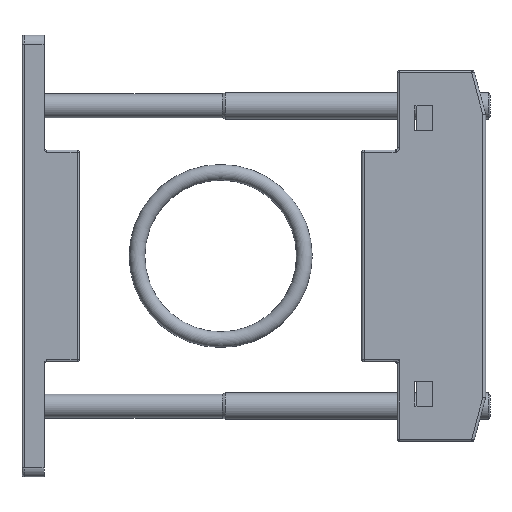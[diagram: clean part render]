
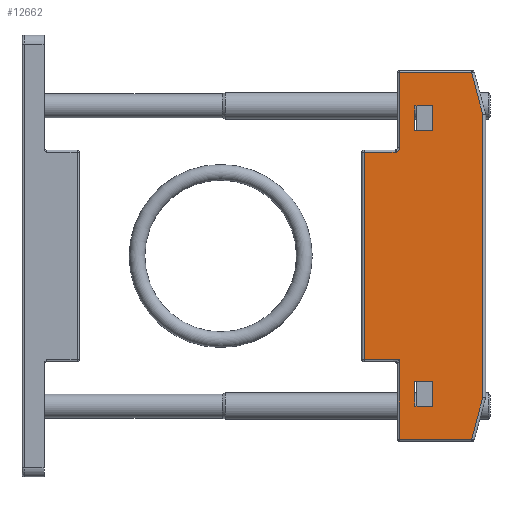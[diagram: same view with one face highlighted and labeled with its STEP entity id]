
A CAD part, front view. The second image highlights one B-rep face of the part: STEP entity #12662.
In plain terms, the highlighted planar face has unit normal (0, -1, 0).
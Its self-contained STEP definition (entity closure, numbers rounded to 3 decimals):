
#388=CIRCLE('',#13583,0.5);
#772=FACE_BOUND('',#2364,.T.);
#773=FACE_BOUND('',#2365,.T.);
#1025=PLANE('',#13582);
#1589=FACE_OUTER_BOUND('',#2363,.T.);
#2363=EDGE_LOOP('',(#10656,#10657,#10658,#10659,#10660,#10661,#10662,#10663,
#10664,#10665,#10666,#10667));
#2364=EDGE_LOOP('',(#10668,#10669,#10670,#10671));
#2365=EDGE_LOOP('',(#10672,#10673,#10674,#10675));
#3345=LINE('',#21510,#4400);
#3349=LINE('',#21519,#4404);
#3354=LINE('',#21531,#4409);
#3366=LINE('',#21561,#4421);
#3373=LINE('',#21577,#4428);
#3380=LINE('',#21595,#4435);
#3389=LINE('',#21613,#4444);
#3415=LINE('',#22202,#4470);
#3417=LINE('',#22207,#4472);
#3419=LINE('',#22211,#4474);
#3449=LINE('',#22300,#4504);
#3453=LINE('',#22313,#4508);
#3454=LINE('',#22315,#4509);
#3455=LINE('',#22325,#4510);
#3456=LINE('',#22327,#4511);
#3457=LINE('',#22329,#4512);
#3458=LINE('',#22330,#4513);
#3459=LINE('',#22331,#4514);
#4400=VECTOR('',#15616,10.);
#4404=VECTOR('',#15622,10.);
#4409=VECTOR('',#15631,10.);
#4421=VECTOR('',#15653,10.);
#4428=VECTOR('',#15664,10.);
#4435=VECTOR('',#15677,10.);
#4444=VECTOR('',#15690,10.);
#4470=VECTOR('',#15860,10.);
#4472=VECTOR('',#15866,10.);
#4474=VECTOR('',#15872,10.);
#4504=VECTOR('',#15944,10.);
#4508=VECTOR('',#15960,10.);
#4509=VECTOR('',#15961,10.);
#4510=VECTOR('',#15964,10.);
#4511=VECTOR('',#15965,10.);
#4512=VECTOR('',#15966,10.);
#4513=VECTOR('',#15967,10.);
#4514=VECTOR('',#15968,10.);
#5013=B_SPLINE_CURVE_WITH_KNOTS('',3,(#22317,#22318,#22319,#22320,#22321),
 .UNSPECIFIED.,.F.,.F.,(4,1,4),(0.,0.025,0.058),
 .UNSPECIFIED.);
#5814=VERTEX_POINT('',#21507);
#5815=VERTEX_POINT('',#21509);
#5818=VERTEX_POINT('',#21516);
#5819=VERTEX_POINT('',#21518);
#5824=VERTEX_POINT('',#21529);
#5837=VERTEX_POINT('',#21560);
#5844=VERTEX_POINT('',#21576);
#5852=VERTEX_POINT('',#21594);
#5908=VERTEX_POINT('',#22069);
#5917=VERTEX_POINT('',#22172);
#5920=VERTEX_POINT('',#22201);
#5921=VERTEX_POINT('',#22206);
#5954=VERTEX_POINT('',#22299);
#5957=VERTEX_POINT('',#22312);
#5958=VERTEX_POINT('',#22314);
#5959=VERTEX_POINT('',#22316);
#5960=VERTEX_POINT('',#22322);
#5961=VERTEX_POINT('',#22324);
#5962=VERTEX_POINT('',#22326);
#5963=VERTEX_POINT('',#22328);
#7373=EDGE_CURVE('',#5815,#5814,#3345,.T.);
#7377=EDGE_CURVE('',#5819,#5818,#3349,.T.);
#7383=EDGE_CURVE('',#5814,#5824,#3354,.T.);
#7398=EDGE_CURVE('',#5837,#5815,#3366,.T.);
#7406=EDGE_CURVE('',#5844,#5819,#3373,.T.);
#7415=EDGE_CURVE('',#5852,#5844,#3380,.T.);
#7425=EDGE_CURVE('',#5818,#5852,#3389,.T.);
#7512=EDGE_CURVE('',#5908,#5920,#3415,.T.);
#7515=EDGE_CURVE('',#5920,#5921,#3417,.T.);
#7518=EDGE_CURVE('',#5921,#5917,#3419,.T.);
#7561=EDGE_CURVE('',#5954,#5917,#3449,.T.);
#7567=EDGE_CURVE('',#5957,#5908,#3453,.T.);
#7568=EDGE_CURVE('',#5958,#5957,#3454,.T.);
#7569=EDGE_CURVE('',#5959,#5958,#5013,.T.);
#7570=EDGE_CURVE('',#5960,#5959,#388,.T.);
#7571=EDGE_CURVE('',#5961,#5960,#3455,.T.);
#7572=EDGE_CURVE('',#5962,#5961,#3456,.T.);
#7573=EDGE_CURVE('',#5963,#5962,#3457,.T.);
#7574=EDGE_CURVE('',#5954,#5963,#3458,.T.);
#7575=EDGE_CURVE('',#5824,#5837,#3459,.T.);
#10656=ORIENTED_EDGE('',*,*,#7512,.F.);
#10657=ORIENTED_EDGE('',*,*,#7567,.F.);
#10658=ORIENTED_EDGE('',*,*,#7568,.F.);
#10659=ORIENTED_EDGE('',*,*,#7569,.F.);
#10660=ORIENTED_EDGE('',*,*,#7570,.F.);
#10661=ORIENTED_EDGE('',*,*,#7571,.F.);
#10662=ORIENTED_EDGE('',*,*,#7572,.F.);
#10663=ORIENTED_EDGE('',*,*,#7573,.F.);
#10664=ORIENTED_EDGE('',*,*,#7574,.F.);
#10665=ORIENTED_EDGE('',*,*,#7561,.T.);
#10666=ORIENTED_EDGE('',*,*,#7518,.F.);
#10667=ORIENTED_EDGE('',*,*,#7515,.F.);
#10668=ORIENTED_EDGE('',*,*,#7575,.T.);
#10669=ORIENTED_EDGE('',*,*,#7398,.T.);
#10670=ORIENTED_EDGE('',*,*,#7373,.T.);
#10671=ORIENTED_EDGE('',*,*,#7383,.T.);
#10672=ORIENTED_EDGE('',*,*,#7377,.T.);
#10673=ORIENTED_EDGE('',*,*,#7425,.T.);
#10674=ORIENTED_EDGE('',*,*,#7415,.T.);
#10675=ORIENTED_EDGE('',*,*,#7406,.T.);
#12662=ADVANCED_FACE('',(#1589,#772,#773),#1025,.T.);
#13582=AXIS2_PLACEMENT_3D('',#22311,#15958,#15959);
#13583=AXIS2_PLACEMENT_3D('',#22323,#15962,#15963);
#15616=DIRECTION('',(0.,0.,1.));
#15622=DIRECTION('',(0.,0.,-1.));
#15631=DIRECTION('',(1.,0.,0.));
#15653=DIRECTION('',(-1.,0.,0.));
#15664=DIRECTION('',(1.,0.,0.));
#15677=DIRECTION('',(0.,0.,1.));
#15690=DIRECTION('',(-1.,0.,0.));
#15860=DIRECTION('',(0.966,0.,0.259));
#15866=DIRECTION('',(1.,0.,0.));
#15872=DIRECTION('',(0.966,0.,-0.259));
#15944=DIRECTION('',(0.,0.,1.));
#15958=DIRECTION('center_axis',(0.,-1.,0.));
#15959=DIRECTION('ref_axis',(0.,0.,-1.));
#15960=DIRECTION('',(0.,0.,1.));
#15961=DIRECTION('',(-1.,0.,0.));
#15962=DIRECTION('center_axis',(0.,-1.,0.));
#15963=DIRECTION('ref_axis',(-0.92,0.,-0.392));
#15964=DIRECTION('',(0.,0.,1.));
#15965=DIRECTION('',(-1.,0.,0.));
#15966=DIRECTION('',(0.,0.,-1.));
#15967=DIRECTION('',(-1.,0.,0.));
#15968=DIRECTION('',(0.,0.,-1.));
#21507=CARTESIAN_POINT('',(-19.,-2.05,-11.5));
#21509=CARTESIAN_POINT('',(-19.,-2.05,-13.5));
#21510=CARTESIAN_POINT('',(-19.,-2.05,-5.5));
#21516=CARTESIAN_POINT('',(15.,-2.05,-13.5));
#21518=CARTESIAN_POINT('',(15.,-2.05,-11.5));
#21519=CARTESIAN_POINT('',(15.,-2.05,-6.5));
#21529=CARTESIAN_POINT('',(-16.2,-2.05,-11.5));
#21531=CARTESIAN_POINT('',(-19.6,-2.05,-11.5));
#21560=CARTESIAN_POINT('',(-16.2,-2.05,-13.5));
#21561=CARTESIAN_POINT('',(-21.,-2.05,-13.5));
#21576=CARTESIAN_POINT('',(12.2,-2.05,-11.5));
#21577=CARTESIAN_POINT('',(-4.,-2.05,-11.5));
#21594=CARTESIAN_POINT('',(12.2,-2.05,-13.5));
#21595=CARTESIAN_POINT('',(12.2,-2.05,-5.5));
#21613=CARTESIAN_POINT('',(-5.4,-2.05,-13.5));
#22069=CARTESIAN_POINT('',(-22.75,-2.05,-7.083));
#22172=CARTESIAN_POINT('',(18.75,-2.05,-7.083));
#22201=CARTESIAN_POINT('',(-17.961,-2.05,-5.8));
#22202=CARTESIAN_POINT('',(-20.755,-2.05,-6.549));
#22206=CARTESIAN_POINT('',(13.961,-2.05,-5.8));
#22207=CARTESIAN_POINT('',(-12.5,-2.05,-5.8));
#22211=CARTESIAN_POINT('',(-2.838,-2.05,-1.299));
#22299=CARTESIAN_POINT('',(18.75,-2.05,-15.25));
#22300=CARTESIAN_POINT('',(18.75,-2.05,-9.5));
#22311=CARTESIAN_POINT('Origin',(-23.,-2.05,0.5));
#22312=CARTESIAN_POINT('',(-22.75,-2.05,-15.25));
#22313=CARTESIAN_POINT('',(-22.75,-2.05,0.5));
#22314=CARTESIAN_POINT('',(-14.25,-2.05,-15.25));
#22315=CARTESIAN_POINT('',(-12.5,-2.05,-15.25));
#22316=CARTESIAN_POINT('',(-13.79,-2.05,-15.554));
#22317=CARTESIAN_POINT('Ctrl Pts',(-13.79,-2.05,
-15.554));
#22318=CARTESIAN_POINT('Ctrl Pts',(-13.822,-2.05,
-15.478));
#22319=CARTESIAN_POINT('Ctrl Pts',(-13.944,-2.05,
-15.318));
#22320=CARTESIAN_POINT('Ctrl Pts',(-14.139,-2.05,
-15.25));
#22321=CARTESIAN_POINT('Ctrl Pts',(-14.25,-2.05,-15.25));
#22322=CARTESIAN_POINT('',(-13.75,-2.05,-15.75));
#22323=CARTESIAN_POINT('Origin',(-14.25,-2.05,-15.75));
#22324=CARTESIAN_POINT('',(-13.75,-2.05,-19.25));
#22325=CARTESIAN_POINT('',(-13.75,-2.05,-7.5));
#22326=CARTESIAN_POINT('',(9.75,-2.05,-19.25));
#22327=CARTESIAN_POINT('',(-18.5,-2.05,-19.25));
#22328=CARTESIAN_POINT('',(9.75,-2.05,-15.25));
#22329=CARTESIAN_POINT('',(9.75,-2.05,-7.5));
#22330=CARTESIAN_POINT('',(-12.5,-2.05,-15.25));
#22331=CARTESIAN_POINT('',(-16.2,-2.05,-6.5));
